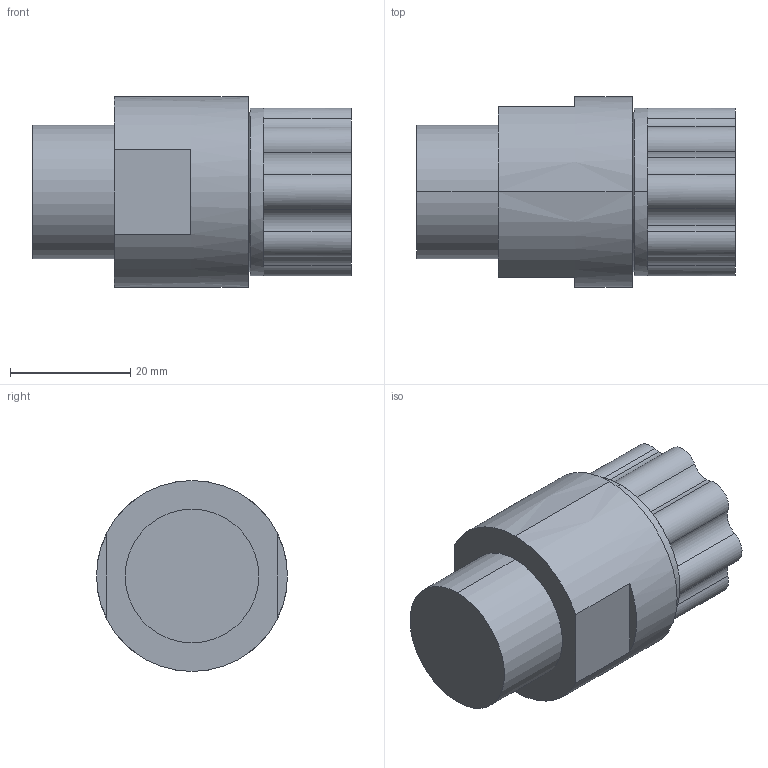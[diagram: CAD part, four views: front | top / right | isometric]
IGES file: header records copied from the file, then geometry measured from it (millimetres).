
Start section: SolidWorks IGES file using analytic representation for surfaces
Global section: file name: S:\Product Visuals\Defeatured Models and Parts Library\Parts Library IGES & STEP\Liquid Fittings\Front Mount liquid Fittings\Synchro Flare\30LPM\Fitting Synchro-Flare 08.IGS; native system: SolidWorks 2012; preprocessor: SolidWorks 2012; author: rachel.dressel; date: 120926.120041; units: inch
Bounding box: 53.01 x 31.75 x 31.75 mm (x, y, z)
Volume: 30738 mm3; surface area: 6734.8 mm2
Topology: 1 solids, 1 shells, 49 faces, 118 edges, 75 vertices
Faces by surface type: revolution 31, plane 18
